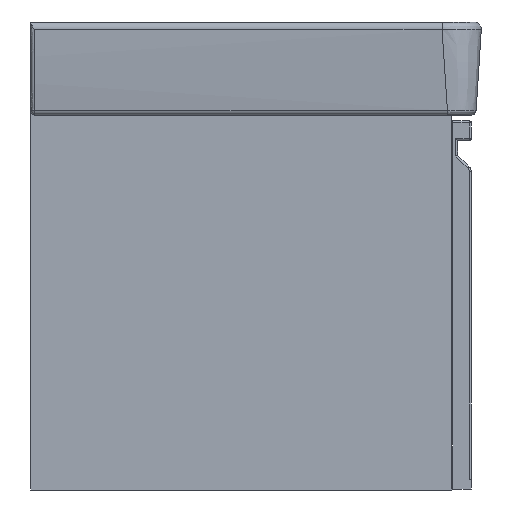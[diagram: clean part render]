
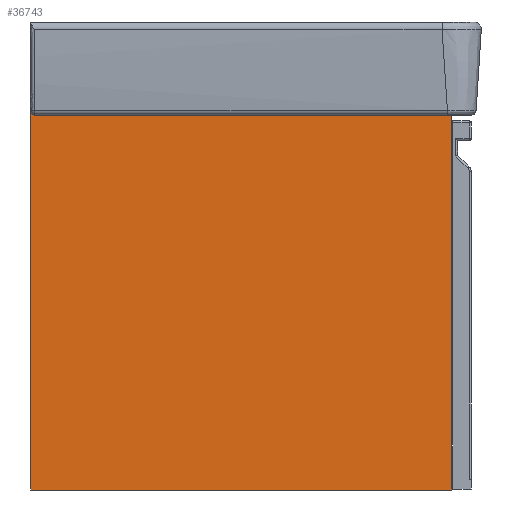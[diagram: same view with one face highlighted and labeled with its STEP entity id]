
A CAD part, left-side view. The second image highlights one B-rep face of the part: STEP entity #36743.
In plain terms, the highlighted planar face has unit normal (-1, 0, 0).
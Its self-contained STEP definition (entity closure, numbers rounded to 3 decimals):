
#2414=PLANE('',#42128);
#5295=LINE('',#232175,#8119);
#5296=LINE('',#232178,#8120);
#5297=LINE('',#232180,#8121);
#5298=LINE('',#232181,#8122);
#8119=VECTOR('',#51481,430.);
#8120=VECTOR('',#51484,387.);
#8121=VECTOR('',#51485,430.);
#8122=VECTOR('',#51486,387.);
#10644=FACE_OUTER_BOUND('',#12576,.T.);
#12576=EDGE_LOOP('',(#34932,#34933,#34934,#34935));
#20610=VERTEX_POINT('',#232168);
#20613=VERTEX_POINT('',#232173);
#20614=VERTEX_POINT('',#232177);
#20615=VERTEX_POINT('',#232179);
#26533=EDGE_CURVE('',#20613,#20610,#5295,.T.);
#26534=EDGE_CURVE('',#20614,#20613,#5296,.T.);
#26535=EDGE_CURVE('',#20615,#20614,#5297,.T.);
#26536=EDGE_CURVE('',#20615,#20610,#5298,.T.);
#34932=ORIENTED_EDGE('',*,*,#26533,.F.);
#34933=ORIENTED_EDGE('',*,*,#26534,.F.);
#34934=ORIENTED_EDGE('',*,*,#26535,.F.);
#34935=ORIENTED_EDGE('',*,*,#26536,.T.);
#36743=ADVANCED_FACE('',(#10644),#2414,.T.);
#42128=AXIS2_PLACEMENT_3D('',#232176,#51482,#51483);
#51481=DIRECTION('',(0.,-1.,0.));
#51482=DIRECTION('center_axis',(-1.,0.,0.));
#51483=DIRECTION('ref_axis',(0.,0.,1.));
#51484=DIRECTION('',(0.,0.,1.));
#51485=DIRECTION('',(0.,1.,0.));
#51486=DIRECTION('',(0.,0.,1.));
#232168=CARTESIAN_POINT('',(-7839.826,-10833.817,-1478.291));
#232173=CARTESIAN_POINT('',(-7839.826,-10403.817,-1478.291));
#232175=CARTESIAN_POINT('',(-7839.826,-10403.817,-1478.291));
#232176=CARTESIAN_POINT('Origin',(-7839.826,-10403.817,-1865.291));
#232177=CARTESIAN_POINT('',(-7839.826,-10403.817,-1865.291));
#232178=CARTESIAN_POINT('',(-7839.826,-10403.817,-1865.291));
#232179=CARTESIAN_POINT('',(-7839.826,-10833.817,-1865.291));
#232180=CARTESIAN_POINT('',(-7839.826,-10833.817,-1865.291));
#232181=CARTESIAN_POINT('',(-7839.826,-10833.817,-1865.291));
